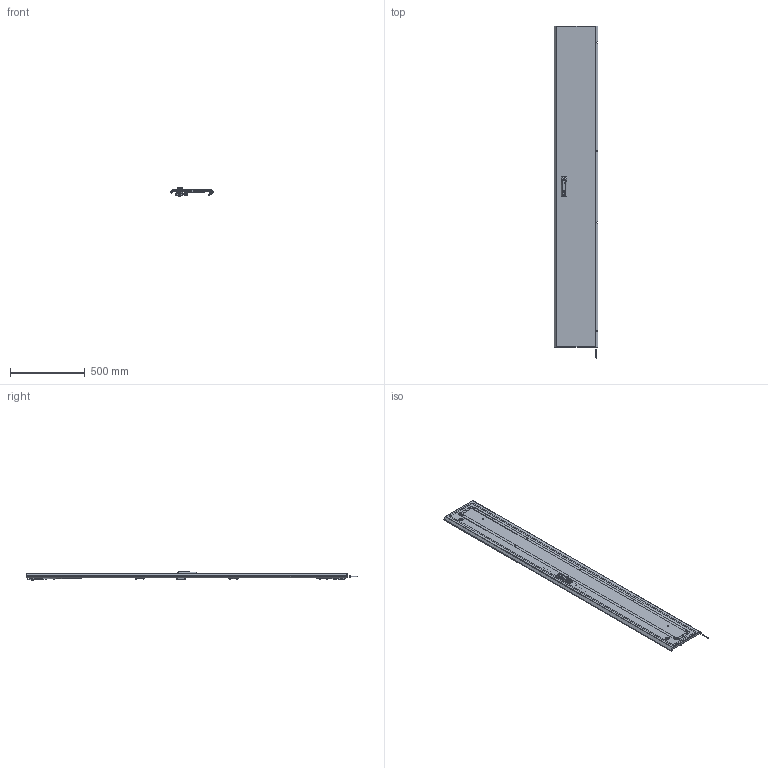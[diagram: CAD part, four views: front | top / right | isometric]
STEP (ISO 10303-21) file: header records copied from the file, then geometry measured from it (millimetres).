
FILE_DESCRIPTION (( 'STEP AP203' ), '1' );
FILE_NAME ('MA1.200.030622.30.00 AleSta-D22M300 Äâåðü ñïëîøíàÿ äëÿ øêàôîâ ALESTA ÂõØ 2200õ300.STEP', '2025-02-19T14:08:12', ( '' ), ( '' ), 'SwSTEP 2.0', 'SolidWorks 2021', '' );
FILE_SCHEMA (( 'CONFIG_CONTROL_DESIGN' ));
Length unit declared in the file: millimetre
Products named in the file (23): MA1.200.060620.31.02 Ðåéêà íà äâåðü âåðòèêàëüíàÿ Â = 2000_‚ = 2200; òÿãà_lg001-2.STEP_‚=2200; Ãàéêà ñàìîêîíòðÿùàÿñÿ ñ íåéëîíîâîé âñòàâêîé Ì6 DIN 985, êëàññ ïðî÷íîñòè 8, îöèíêîâàííàÿ ñòàëü_Œ5; êðåïëåíèå_êðóãëîé_òÿãè_RG1020-1.stp; Øïèëüêà Ì6õ12_˜¯¨«ìª  Œ6å20; Âèíò_ðåçüáîâûäàâëèâàþùèé_Ì5õ12_DIN 7500E_Œ5å12; Øïèëüêà Ì6õ12_˜¯¨«ìª  Œ6å16; Íàâåñêà íà êîðïóñ ïîä êëåïêó; 諘蜱齁罻 022 瀁錒瀔隮; Îñü ïåòëè 4õ52_‚¨­â A.M4x0,5x40 ƒŽ‘’ 11644-75; MA1.200.060620.31.04 需沐朦_惃％; Áîëò øåñòèãðàííûé Ì5õ12 DIN 933, êëàññ ïðî÷íîñòè 8.8, îöèíêîâàííàÿ ñòàëü; Ãàéêà ñàìîêîíòðÿùàÿñÿ ñ íåéëîíîâîé âñòàâêîé Ì6 DIN 985, êëàññ ïðî÷íîñòè 8, îöèíêîâàííàÿ ñòàëü_Œ6; MA1.200.060620.31.06 赶鎀鍧_100 洵; äåðæàòåëü_êðóãëîé_òÿãèRG002-RG1010-2-i-RG1010-3-.stp; MA1.200.060620.31.01 Ïîëîòíî äâåðè ñïëîøíîé 2000õ600_2200å300; Âèíò ñàìîíàðåçàþùèé ñ ïîòàéíîé ãîëîâêîé Ì5x16 DIN 7500 M TORX, êëàññ ïðî÷íîñòè 8.8, îöèíêîâàííàÿ ñòàëü_Œ5å16; Óïëîòíèòåëü ïàíåëè íèæíåé_   ‚=2200; MA1.200.060620.31.05 Óãëîâîé óïîð äâåðíîé òÿãè; MA1.200.060620.31.00 Äâåðü ñïëîøíàÿ äëÿ øêàôîâ ALESTA ÂõØ 2000õ600_2200å300; MA1.200.060620.31.03 Ðåéêà íà äâåðü ãîðèçîíòàëüíàÿ Ø = 600_˜=300; MA1.200.030622.30.00 AleSta-D22M300 Äâåðü ñïëîøíàÿ äëÿ øêàôîâ ALESTA ÂõØ 2200õ300; MS463-2-3(1)
Assembly tree (76 placements, depth 3):
  MA1.200.030622.30.00 AleSta-D22M300 Äâåðü ñïëîøíàÿ äëÿ øêàôîâ ALESTA ÂõØ 2200õ300
    MA1.200.060620.31.00 Äâåðü ñïëîøíàÿ äëÿ øêàôîâ ALESTA ÂõØ 2000õ600_2200å300
      MA1.200.060620.31.01 Ïîëîòíî äâåðè ñïëîøíîé 2000õ600_2200å300
      Óïëîòíèòåëü ïàíåëè íèæíåé_   ‚=2200
      Øïèëüêà Ì6õ12_˜¯¨«ìª  Œ6å20  x12
      Øïèëüêà Ì6õ12_˜¯¨«ìª  Œ6å16  x4
    MA1.200.060620.31.03 Ðåéêà íà äâåðü ãîðèçîíòàëüíàÿ Ø = 600_˜=300  x2
    諘蜱齁罻 022 瀁錒瀔隮  x4
    MA1.200.060620.31.02 Ðåéêà íà äâåðü âåðòèêàëüíàÿ Â = 2000_‚ = 2200  x2
    äåðæàòåëü_êðóãëîé_òÿãèRG002-RG1010-2-i-RG1010-3-.stp  x2
    òÿãà_lg001-2.STEP_‚=2200  x2
    êðåïëåíèå_êðóãëîé_òÿãè_RG1020-1.stp  x2
    MS463-2-3(1)
    Ãàéêà ñàìîêîíòðÿùàÿñÿ ñ íåéëîíîâîé âñòàâêîé Ì6 DIN 985, êëàññ ïðî÷íîñòè 8, îöèíêîâàííàÿ ñòàëü_Œ6  x12
    Ãàéêà ñàìîêîíòðÿùàÿñÿ ñ íåéëîíîâîé âñòàâêîé Ì6 DIN 985, êëàññ ïðî÷íîñòè 8, îöèíêîâàííàÿ ñòàëü_Œ5  x2
    Áîëò øåñòèãðàííûé Ì5õ12 DIN 933, êëàññ ïðî÷íîñòè 8.8, îöèíêîâàííàÿ ñòàëü  x2
    MA1.200.060620.31.05 Óãëîâîé óïîð äâåðíîé òÿãè  x2
    Âèíò_ðåçüáîâûäàâëèâàþùèé_Ì5õ12_DIN 7500E_Œ5å12  x6
    Íàâåñêà íà êîðïóñ ïîä êëåïêó  x4
    Îñü ïåòëè 4õ52_‚¨­â A.M4x0,5x40 ƒŽ‘’ 11644-75  x4
    Âèíò ñàìîíàðåçàþùèé ñ ïîòàéíîé ãîëîâêîé Ì5x16 DIN 7500 M TORX, êëàññ ïðî÷íîñòè 8.8, îöèíêîâàííàÿ ñòàëü_Œ5å16  x8
    MA1.200.060620.31.04 需沐朦_惃％
    MA1.200.060620.31.06 赶鎀鍧_100 洵
Bounding box: 291.81 x 2215.65 x 57.84 mm (x, y, z)
Volume: 1878102.1 mm3; surface area: 2202193 mm2
Topology: 110 solids, 124 shells, 5833 faces, 14512 edges, 8884 vertices
Faces by surface type: plane 2369, cylinder 2303, bspline 613, cone 253, torus 197, sphere 98
Entity records: 138714 total; most frequent: CARTESIAN_POINT 58720, ORIENTED_EDGE 16218, DIRECTION 15201, EDGE_CURVE 8126, AXIS2_PLACEMENT_3D 5423, VERTEX_POINT 5076, LINE 4355, VECTOR 4355
